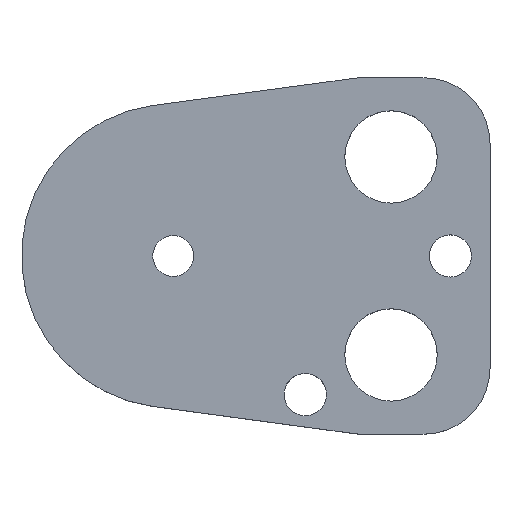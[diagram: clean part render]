
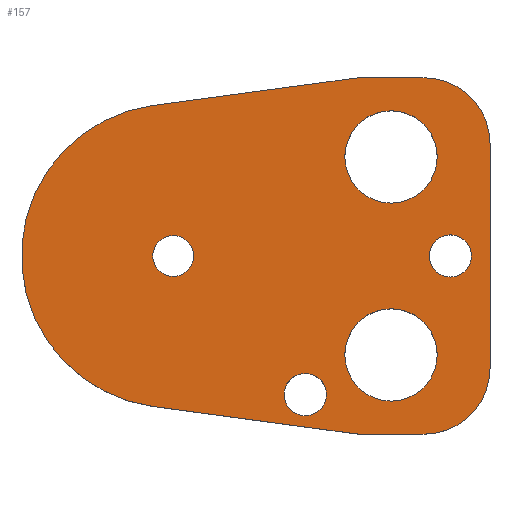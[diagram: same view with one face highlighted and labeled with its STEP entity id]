
A CAD part, top view. The second image highlights one B-rep face of the part: STEP entity #157.
In plain terms, the highlighted planar face has unit normal (0, 0, 1).
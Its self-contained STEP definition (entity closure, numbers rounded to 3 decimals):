
#103=FACE_BOUND('',#207,.T.);
#104=FACE_BOUND('',#208,.T.);
#105=FACE_BOUND('',#209,.T.);
#106=FACE_BOUND('',#210,.T.);
#107=FACE_BOUND('',#211,.T.);
#108=FACE_BOUND('',#212,.T.);
#122=CIRCLE('',#480,10.);
#124=CIRCLE('',#484,10.);
#127=CIRCLE('',#490,23.);
#138=CIRCLE('',#503,3.2);
#139=CIRCLE('',#504,3.2);
#140=CIRCLE('',#505,7.);
#141=CIRCLE('',#506,7.);
#142=CIRCLE('',#507,7.);
#143=CIRCLE('',#508,7.);
#144=CIRCLE('',#509,3.2);
#145=CIRCLE('',#510,3.2);
#146=CIRCLE('',#511,3.1);
#147=CIRCLE('',#512,3.1);
#157=ADVANCED_FACE('',(#103,#104,#105,#106,#107,#108),#174,.T.);
#174=PLANE('',#513);
#207=EDGE_LOOP('',(#273,#274,#275,#276,#277,#278,#279,#280));
#208=EDGE_LOOP('',(#281,#282));
#209=EDGE_LOOP('',(#283,#284));
#210=EDGE_LOOP('',(#285,#286));
#211=EDGE_LOOP('',(#287,#288));
#212=EDGE_LOOP('',(#289,#290));
#273=ORIENTED_EDGE('',*,*,#368,.T.);
#274=ORIENTED_EDGE('',*,*,#372,.T.);
#275=ORIENTED_EDGE('',*,*,#375,.T.);
#276=ORIENTED_EDGE('',*,*,#378,.T.);
#277=ORIENTED_EDGE('',*,*,#381,.T.);
#278=ORIENTED_EDGE('',*,*,#384,.T.);
#279=ORIENTED_EDGE('',*,*,#387,.T.);
#280=ORIENTED_EDGE('',*,*,#390,.T.);
#281=ORIENTED_EDGE('',*,*,#401,.T.);
#282=ORIENTED_EDGE('',*,*,#402,.T.);
#283=ORIENTED_EDGE('',*,*,#403,.T.);
#284=ORIENTED_EDGE('',*,*,#404,.T.);
#285=ORIENTED_EDGE('',*,*,#405,.T.);
#286=ORIENTED_EDGE('',*,*,#406,.T.);
#287=ORIENTED_EDGE('',*,*,#407,.T.);
#288=ORIENTED_EDGE('',*,*,#408,.T.);
#289=ORIENTED_EDGE('',*,*,#409,.T.);
#290=ORIENTED_EDGE('',*,*,#410,.T.);
#332=VERTEX_POINT('',#649);
#333=VERTEX_POINT('',#651);
#336=VERTEX_POINT('',#658);
#338=VERTEX_POINT('',#664);
#340=VERTEX_POINT('',#670);
#342=VERTEX_POINT('',#676);
#344=VERTEX_POINT('',#682);
#346=VERTEX_POINT('',#688);
#357=VERTEX_POINT('',#717);
#358=VERTEX_POINT('',#718);
#359=VERTEX_POINT('',#721);
#360=VERTEX_POINT('',#722);
#361=VERTEX_POINT('',#725);
#362=VERTEX_POINT('',#726);
#363=VERTEX_POINT('',#729);
#364=VERTEX_POINT('',#730);
#365=VERTEX_POINT('',#733);
#366=VERTEX_POINT('',#734);
#368=EDGE_CURVE('',#333,#332,#422,.T.);
#372=EDGE_CURVE('',#332,#336,#426,.T.);
#375=EDGE_CURVE('',#336,#338,#122,.T.);
#378=EDGE_CURVE('',#338,#340,#430,.T.);
#381=EDGE_CURVE('',#340,#342,#124,.T.);
#384=EDGE_CURVE('',#342,#344,#434,.T.);
#387=EDGE_CURVE('',#344,#346,#437,.T.);
#390=EDGE_CURVE('',#346,#333,#127,.T.);
#401=EDGE_CURVE('',#357,#358,#138,.T.);
#402=EDGE_CURVE('',#358,#357,#139,.T.);
#403=EDGE_CURVE('',#359,#360,#140,.T.);
#404=EDGE_CURVE('',#360,#359,#141,.T.);
#405=EDGE_CURVE('',#361,#362,#142,.T.);
#406=EDGE_CURVE('',#362,#361,#143,.T.);
#407=EDGE_CURVE('',#363,#364,#144,.T.);
#408=EDGE_CURVE('',#364,#363,#145,.T.);
#409=EDGE_CURVE('',#365,#366,#146,.T.);
#410=EDGE_CURVE('',#366,#365,#147,.T.);
#422=LINE('',#650,#450);
#426=LINE('',#659,#454);
#430=LINE('',#671,#458);
#434=LINE('',#683,#462);
#437=LINE('',#689,#465);
#450=VECTOR('',#527,1.);
#454=VECTOR('',#533,1.);
#458=VECTOR('',#545,1.);
#462=VECTOR('',#557,1.);
#465=VECTOR('',#562,1.);
#480=AXIS2_PLACEMENT_3D('',#665,#538,#539);
#484=AXIS2_PLACEMENT_3D('',#677,#550,#551);
#490=AXIS2_PLACEMENT_3D('',#693,#568,#569);
#503=AXIS2_PLACEMENT_3D('',#716,#594,#595);
#504=AXIS2_PLACEMENT_3D('',#719,#596,#597);
#505=AXIS2_PLACEMENT_3D('',#720,#598,#599);
#506=AXIS2_PLACEMENT_3D('',#723,#600,#601);
#507=AXIS2_PLACEMENT_3D('',#724,#602,#603);
#508=AXIS2_PLACEMENT_3D('',#727,#604,#605);
#509=AXIS2_PLACEMENT_3D('',#728,#606,#607);
#510=AXIS2_PLACEMENT_3D('',#731,#608,#609);
#511=AXIS2_PLACEMENT_3D('',#732,#610,#611);
#512=AXIS2_PLACEMENT_3D('',#735,#612,#613);
#513=AXIS2_PLACEMENT_3D('',#736,#614,#615);
#527=DIRECTION('',(0.991,-0.134,0.));
#533=DIRECTION('',(1.,0.,0.));
#538=DIRECTION('',(0.,0.,1.));
#539=DIRECTION('',(-0.707,0.707,0.));
#545=DIRECTION('',(0.,1.,0.));
#550=DIRECTION('',(0.,0.,1.));
#551=DIRECTION('',(-0.707,-0.707,0.));
#557=DIRECTION('',(-1.,0.,0.));
#562=DIRECTION('',(-0.991,-0.134,0.));
#568=DIRECTION('',(0.,0.,1.));
#569=DIRECTION('',(1.,0.,0.));
#594=DIRECTION('',(0.,0.,-1.));
#595=DIRECTION('',(-1.,0.,0.));
#596=DIRECTION('',(0.,0.,-1.));
#597=DIRECTION('',(1.,0.,0.));
#598=DIRECTION('',(0.,0.,-1.));
#599=DIRECTION('',(-1.,0.,0.));
#600=DIRECTION('',(0.,0.,-1.));
#601=DIRECTION('',(1.,0.,0.));
#602=DIRECTION('',(0.,0.,-1.));
#603=DIRECTION('',(-1.,0.,0.));
#604=DIRECTION('',(0.,0.,-1.));
#605=DIRECTION('',(1.,0.,0.));
#606=DIRECTION('',(0.,0.,-1.));
#607=DIRECTION('',(-1.,0.,0.));
#608=DIRECTION('',(0.,0.,-1.));
#609=DIRECTION('',(1.,0.,0.));
#610=DIRECTION('',(0.,0.,-1.));
#611=DIRECTION('',(-1.,0.,0.));
#612=DIRECTION('',(0.,0.,-1.));
#613=DIRECTION('',(1.,0.,0.));
#614=DIRECTION('',(0.,0.,1.));
#615=DIRECTION('',(0.991,-0.134,0.));
#649=CARTESIAN_POINT('',(28.,-27.,8.));
#650=CARTESIAN_POINT('',(28.,-27.,8.));
#651=CARTESIAN_POINT('',(-3.085,-22.792,8.));
#658=CARTESIAN_POINT('',(38.,-27.,8.));
#659=CARTESIAN_POINT('',(28.,-27.,8.));
#664=CARTESIAN_POINT('',(48.,-17.,8.));
#665=CARTESIAN_POINT('',(38.,-17.,8.));
#670=CARTESIAN_POINT('',(48.,17.,8.));
#671=CARTESIAN_POINT('',(48.,17.,8.));
#676=CARTESIAN_POINT('',(38.,27.,8.));
#677=CARTESIAN_POINT('',(38.,17.,8.));
#682=CARTESIAN_POINT('',(28.,27.,8.));
#683=CARTESIAN_POINT('',(28.,27.,8.));
#688=CARTESIAN_POINT('',(-3.085,22.792,8.));
#689=CARTESIAN_POINT('',(28.,27.,8.));
#693=CARTESIAN_POINT('',(0.,0.,8.));
#716=CARTESIAN_POINT('',(42.,0.,8.));
#717=CARTESIAN_POINT('',(42.,3.2,8.));
#718=CARTESIAN_POINT('',(42.,-3.2,8.));
#719=CARTESIAN_POINT('',(42.,0.,8.));
#720=CARTESIAN_POINT('',(33.,15.,8.));
#721=CARTESIAN_POINT('',(33.,22.,8.));
#722=CARTESIAN_POINT('',(33.,8.,8.));
#723=CARTESIAN_POINT('',(33.,15.,8.));
#724=CARTESIAN_POINT('',(33.,-15.,8.));
#725=CARTESIAN_POINT('',(33.,-8.,8.));
#726=CARTESIAN_POINT('',(33.,-22.,8.));
#727=CARTESIAN_POINT('',(33.,-15.,8.));
#728=CARTESIAN_POINT('',(20.,-21.,8.));
#729=CARTESIAN_POINT('',(20.,-17.8,8.));
#730=CARTESIAN_POINT('',(20.,-24.2,8.));
#731=CARTESIAN_POINT('',(20.,-21.,8.));
#732=CARTESIAN_POINT('',(0.,0.,8.));
#733=CARTESIAN_POINT('',(0.,3.1,8.));
#734=CARTESIAN_POINT('',(0.,-3.1,8.));
#735=CARTESIAN_POINT('',(0.,0.,8.));
#736=CARTESIAN_POINT('',(-3.085,-22.792,8.));
